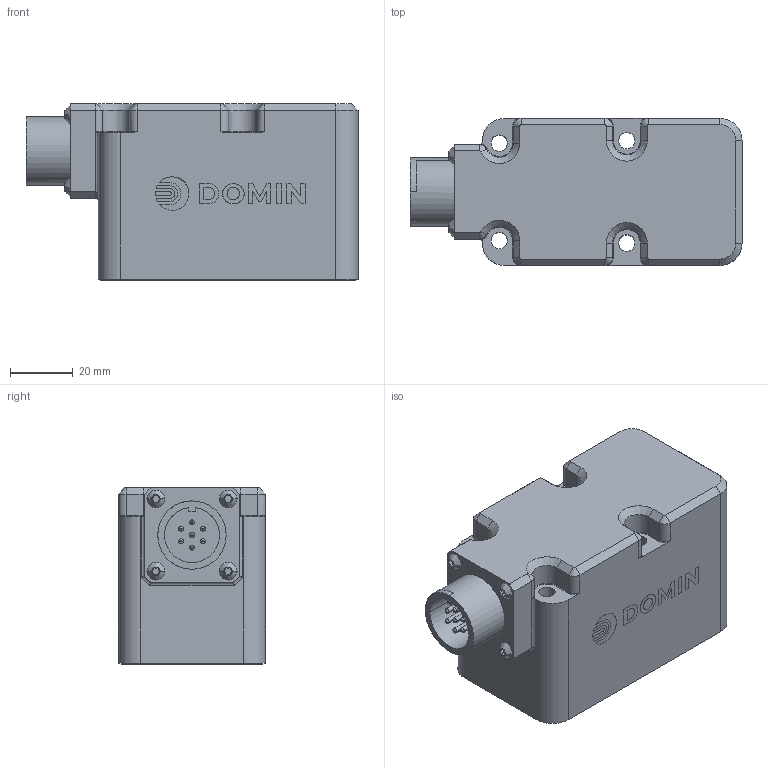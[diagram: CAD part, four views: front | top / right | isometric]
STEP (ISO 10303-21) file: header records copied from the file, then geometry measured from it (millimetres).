
FILE_DESCRIPTION((''),'2;1');
FILE_NAME('S6_PRO_1_3_0_FEB_2021','2021-10-06T16:27:43',('EvanLockwood'),(''),'CREO PARAMETRIC BY PTC INC, 2021072','CREO PARAMETRIC BY PTC INC, 2021072','');
FILE_SCHEMA(('CONFIG_CONTROL_DESIGN'));
Length unit declared in the file: millimetre
Products named in the file (1): S6_PRO_1_3_0_FEB_2021
Bounding box: 105.45 x 46.7 x 56.01 mm (x, y, z)
Volume: 213191.2 mm3; surface area: 28817.6 mm2
Topology: 1 solids, 9 shells, 768 faces, 2012 edges, 1316 vertices
Faces by surface type: plane 324, extrusion 189, cylinder 165, cone 34, torus 34, bspline 22
Entity records: 25345 total; most frequent: CARTESIAN_POINT 6925, ORIENTED_EDGE 4000, DIRECTION 3345, EDGE_CURVE 2000, VERTEX_POINT 1316, VECTOR 1235, AXIS2_PLACEMENT_3D 1055, LINE 1046
